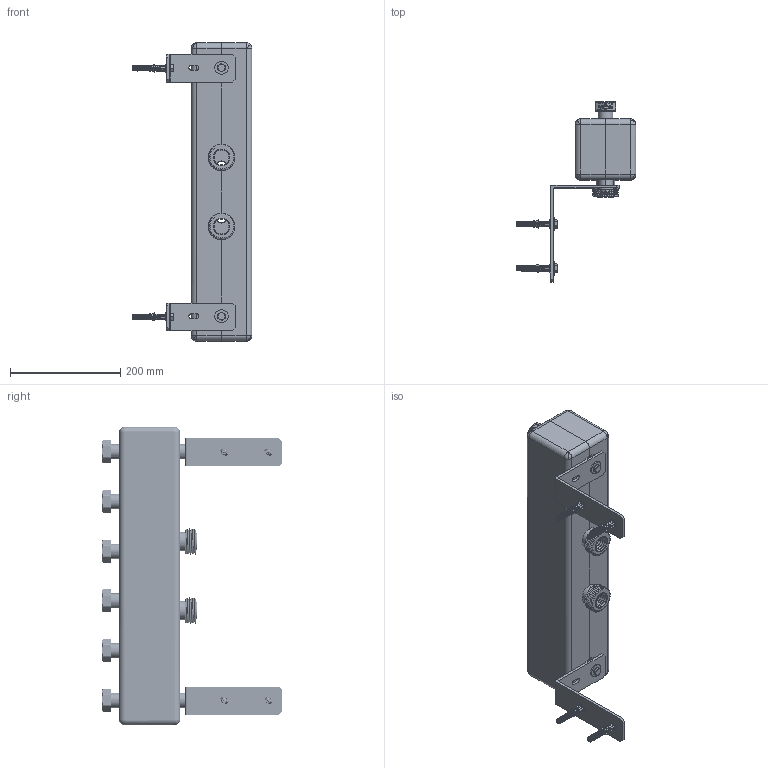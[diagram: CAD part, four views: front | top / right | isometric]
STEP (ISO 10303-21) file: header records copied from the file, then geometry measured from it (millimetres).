
FILE_DESCRIPTION (( 'STEP AP214' ), '1' );
FILE_NAME ('KSV_90_Rozdzielacz_dla_3_obiegów_pompowych_9023100_0_3D_AFRISO1.STEP', '2024-02-06T08:19:13', ( '' ), ( '' ), 'SwSTEP 2.0', 'SolidWorks 2022', '' );
FILE_SCHEMA (( 'AUTOMOTIVE_DESIGN' ));
Length unit declared in the file: millimetre
Products named in the file (22): 08_018_005; 08_001_038; 08_013_004; 08_013_017; 08_018_015; KSV_90_Rozdzielacz_dla_3_obiegów_pompowych_9023100_0_3D_AFRISO1; 08_001_025; 08_018_003; DIN9021-8; 08_018_009; GUMA_NOSILCA_M8; SCREW_DIN_933-M8X25-8_8-A; DIN571_8X60_CUZN; 08_018_012; 08_013_015; 08_001_033_SESTAVLJEN_ASM; 08_018_300_IZOLACIJA_ASM; 08_001_033; 08_018_007; 08_018_014; ZIDNI_VLOZEK_10; 08_001_006
Assembly tree (50 placements, depth 3):
  KSV_90_Rozdzielacz_dla_3_obiegów_pompowych_9023100_0_3D_AFRISO1
    08_018_009
    08_018_012
    08_001_006  x2
    08_013_015
    08_013_004
    08_001_025  x2
    08_013_017  x3
    08_001_033_SESTAVLJEN_ASM  x2
      08_001_033
      DIN9021-8
      SCREW_DIN_933-M8X25-8_8-A
      GUMA_NOSILCA_M8
      DIN571_8X60_CUZN
      ZIDNI_VLOZEK_10
    08_018_014  x2
    08_018_003  x3
    08_018_007  x6
    08_018_015  x3
    08_001_038  x4
    08_018_300_IZOLACIJA_ASM
      08_018_014  x2
    08_018_005  x6
Bounding box: 216.91 x 326 x 540 mm (x, y, z)
Volume: 9509031.4 mm3; surface area: 1492107 mm2
Topology: 49 solids, 65 shells, 4330 faces, 12200 edges, 7964 vertices
Faces by surface type: cylinder 1798, plane 1374, cone 874, bspline 284
Entity records: 59135 total; most frequent: CARTESIAN_POINT 22883, ORIENTED_EDGE 6786, DIRECTION 6345, EDGE_CURVE 3397, AXIS2_PLACEMENT_3D 2549, VERTEX_POINT 2226, CIRCLE 1353, EDGE_LOOP 1321
